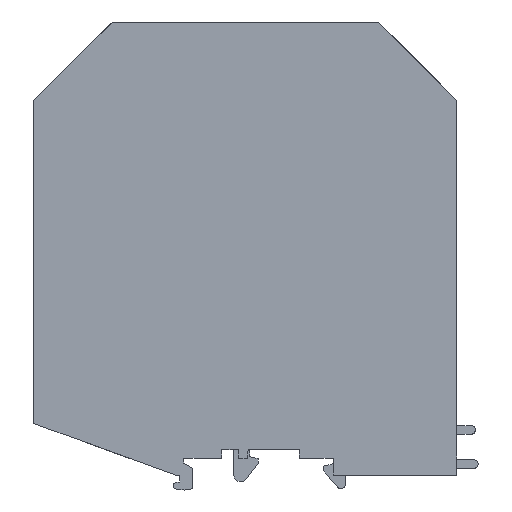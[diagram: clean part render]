
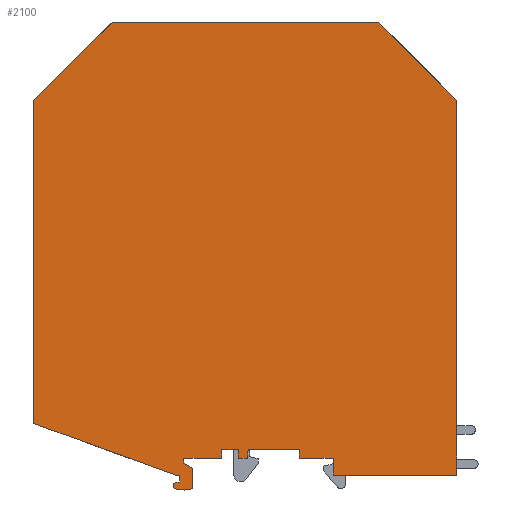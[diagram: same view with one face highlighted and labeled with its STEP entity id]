
A CAD part, left-side view. The second image highlights one B-rep face of the part: STEP entity #2100.
In plain terms, the highlighted planar face has unit normal (-1, 0, 0) as drawn and (0, 0, 1) by its records, which use the part's own axes.
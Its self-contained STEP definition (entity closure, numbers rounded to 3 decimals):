
#10=CARTESIAN_POINT('',(96.969,121.013,29.5));
#20=DIRECTION('',(0.,0.,1.));
#30=DIRECTION('',(1.,0.,0.));
#40=AXIS2_PLACEMENT_3D('',#10,#20,#30);
#50=PLANE('',#40);
#60=CARTESIAN_POINT('',(87.85,27.957,29.5));
#70=DIRECTION('',(0.,0.,-1.));
#80=DIRECTION('',(-1.,0.,0.));
#90=AXIS2_PLACEMENT_3D('',#60,#70,#80);
#100=CIRCLE('',#90,7.2);
#110=CARTESIAN_POINT('',(90.05,21.101,29.5));
#120=VERTEX_POINT('',#110);
#130=CARTESIAN_POINT('',(85.944,21.014,29.5));
#140=VERTEX_POINT('',#130);
#150=EDGE_CURVE('',#120,#140,#100,.T.);
#160=ORIENTED_EDGE('',*,*,#150,.F.);
#170=CARTESIAN_POINT('',(86.1,21.747,29.5));
#180=DIRECTION('',(0.,0.,-1.));
#190=DIRECTION('',(-1.,0.,0.));
#200=AXIS2_PLACEMENT_3D('',#170,#180,#190);
#210=CIRCLE('',#200,0.75);
#220=CARTESIAN_POINT('',(85.97,22.486,29.5));
#230=VERTEX_POINT('',#220);
#240=EDGE_CURVE('',#140,#230,#210,.T.);
#250=ORIENTED_EDGE('',*,*,#240,.F.);
#260=CARTESIAN_POINT('',(0.,7.327,29.5));
#270=DIRECTION('',(0.985,0.174,0.));
#280=VECTOR('',#270,1.);
#290=LINE('',#260,#280);
#300=CARTESIAN_POINT('',(86.9,22.65,29.5));
#310=VERTEX_POINT('',#300);
#320=EDGE_CURVE('',#230,#310,#290,.T.);
#330=ORIENTED_EDGE('',*,*,#320,.F.);
#340=CARTESIAN_POINT('',(86.9,0.,29.5));
#350=DIRECTION('',(0.,1.,0.));
#360=VECTOR('',#350,1.);
#370=LINE('',#340,#360);
#380=CARTESIAN_POINT('',(86.9,24.3,29.5));
#390=VERTEX_POINT('',#380);
#400=EDGE_CURVE('',#310,#390,#370,.T.);
#410=ORIENTED_EDGE('',*,*,#400,.F.);
#420=CARTESIAN_POINT('',(0.,24.3,29.5));
#430=DIRECTION('',(-1.,0.,0.));
#440=VECTOR('',#430,1.);
#450=LINE('',#420,#440);
#460=CARTESIAN_POINT('',(85.918,24.3,29.5));
#470=VERTEX_POINT('',#460);
#480=EDGE_CURVE('',#390,#470,#450,.T.);
#490=ORIENTED_EDGE('',*,*,#480,.F.);
#500=CARTESIAN_POINT('',(0.,55.571,29.5));
#510=DIRECTION('',(-0.94,0.342,0.));
#520=VECTOR('',#510,1.);
#530=LINE('',#500,#520);
#540=CARTESIAN_POINT('',(52.4,36.499,29.5));
#550=VERTEX_POINT('',#540);
#560=EDGE_CURVE('',#470,#550,#530,.T.);
#570=ORIENTED_EDGE('',*,*,#560,.F.);
#580=CARTESIAN_POINT('',(52.4,0.,29.5));
#590=DIRECTION('',(0.,-1.,0.));
#600=VECTOR('',#590,1.);
#610=LINE('',#580,#600);
#620=CARTESIAN_POINT('',(52.4,113.1,29.5));
#630=VERTEX_POINT('',#620);
#640=EDGE_CURVE('',#630,#550,#610,.T.);
#650=ORIENTED_EDGE('',*,*,#640,.T.);
#660=CARTESIAN_POINT('',(-60.7,0.,29.5));
#670=DIRECTION('',(0.707,0.707,0.));
#680=VECTOR('',#670,1.);
#690=LINE('',#660,#680);
#700=CARTESIAN_POINT('',(70.9,131.6,29.5));
#710=VERTEX_POINT('',#700);
#720=EDGE_CURVE('',#630,#710,#690,.T.);
#730=ORIENTED_EDGE('',*,*,#720,.F.);
#740=CARTESIAN_POINT('',(0.,131.6,29.5));
#750=DIRECTION('',(1.,0.,0.));
#760=VECTOR('',#750,1.);
#770=LINE('',#740,#760);
#780=CARTESIAN_POINT('',(134.,131.6,29.5));
#790=VERTEX_POINT('',#780);
#800=EDGE_CURVE('',#710,#790,#770,.T.);
#810=ORIENTED_EDGE('',*,*,#800,.F.);
#820=CARTESIAN_POINT('',(265.6,0.,29.5));
#830=DIRECTION('',(0.707,-0.707,0.));
#840=VECTOR('',#830,1.);
#850=LINE('',#820,#840);
#860=CARTESIAN_POINT('',(152.5,113.1,29.5));
#870=VERTEX_POINT('',#860);
#880=EDGE_CURVE('',#790,#870,#850,.T.);
#890=ORIENTED_EDGE('',*,*,#880,.F.);
#900=CARTESIAN_POINT('',(152.5,0.,29.5));
#910=DIRECTION('',(0.,-1.,0.));
#920=VECTOR('',#910,1.);
#930=LINE('',#900,#920);
#940=CARTESIAN_POINT('',(152.5,24.3,29.5));
#950=VERTEX_POINT('',#940);
#960=EDGE_CURVE('',#870,#950,#930,.T.);
#970=ORIENTED_EDGE('',*,*,#960,.F.);
#980=CARTESIAN_POINT('',(0.,24.3,29.5));
#990=DIRECTION('',(-1.,0.,0.));
#1000=VECTOR('',#990,1.);
#1010=LINE('',#980,#1000);
#1020=CARTESIAN_POINT('',(123.302,24.3,29.5));
#1030=VERTEX_POINT('',#1020);
#1040=EDGE_CURVE('',#950,#1030,#1010,.T.);
#1050=ORIENTED_EDGE('',*,*,#1040,.F.);
#1060=CARTESIAN_POINT('',(123.302,0.,29.5));
#1070=DIRECTION('',(0.,1.,0.));
#1080=VECTOR('',#1070,1.);
#1090=LINE('',#1060,#1080);
#1100=CARTESIAN_POINT('',(123.302,28.25,29.5));
#1110=VERTEX_POINT('',#1100);
#1120=EDGE_CURVE('',#1030,#1110,#1090,.T.);
#1130=ORIENTED_EDGE('',*,*,#1120,.F.);
#1140=CARTESIAN_POINT('',(0.,28.25,29.5));
#1150=DIRECTION('',(1.,0.,0.));
#1160=VECTOR('',#1150,1.);
#1170=LINE('',#1140,#1160);
#1180=CARTESIAN_POINT('',(115.25,28.25,29.5));
#1190=VERTEX_POINT('',#1180);
#1200=EDGE_CURVE('',#1190,#1110,#1170,.T.);
#1210=ORIENTED_EDGE('',*,*,#1200,.T.);
#1220=CARTESIAN_POINT('',(115.25,0.,29.5));
#1230=DIRECTION('',(0.,1.,0.));
#1240=VECTOR('',#1230,1.);
#1250=LINE('',#1220,#1240);
#1260=CARTESIAN_POINT('',(115.25,30.35,29.5));
#1270=VERTEX_POINT('',#1260);
#1280=EDGE_CURVE('',#1190,#1270,#1250,.T.);
#1290=ORIENTED_EDGE('',*,*,#1280,.F.);
#1300=CARTESIAN_POINT('',(0.,30.35,29.5));
#1310=DIRECTION('',(1.,0.,0.));
#1320=VECTOR('',#1310,1.);
#1330=LINE('',#1300,#1320);
#1340=CARTESIAN_POINT('',(103.15,30.35,29.5));
#1350=VERTEX_POINT('',#1340);
#1360=EDGE_CURVE('',#1350,#1270,#1330,.T.);
#1370=ORIENTED_EDGE('',*,*,#1360,.T.);
#1380=CARTESIAN_POINT('',(100.495,0.,29.5));
#1390=DIRECTION('',(-0.087,-0.996,0.));
#1400=VECTOR('',#1390,1.);
#1410=LINE('',#1380,#1400);
#1420=CARTESIAN_POINT('',(102.966,28.25,29.5));
#1430=VERTEX_POINT('',#1420);
#1440=EDGE_CURVE('',#1350,#1430,#1410,.T.);
#1450=ORIENTED_EDGE('',*,*,#1440,.F.);
#1460=CARTESIAN_POINT('',(0.,28.25,29.5));
#1470=DIRECTION('',(-1.,0.,0.));
#1480=VECTOR('',#1470,1.);
#1490=LINE('',#1460,#1480);
#1500=CARTESIAN_POINT('',(100.85,28.25,29.5));
#1510=VERTEX_POINT('',#1500);
#1520=EDGE_CURVE('',#1430,#1510,#1490,.T.);
#1530=ORIENTED_EDGE('',*,*,#1520,.F.);
#1540=CARTESIAN_POINT('',(100.85,0.,29.5));
#1550=DIRECTION('',(0.,1.,0.));
#1560=VECTOR('',#1550,1.);
#1570=LINE('',#1540,#1560);
#1580=CARTESIAN_POINT('',(100.85,30.35,29.5));
#1590=VERTEX_POINT('',#1580);
#1600=EDGE_CURVE('',#1510,#1590,#1570,.T.);
#1610=ORIENTED_EDGE('',*,*,#1600,.F.);
#1620=CARTESIAN_POINT('',(0.,30.35,29.5));
#1630=DIRECTION('',(-1.,0.,0.));
#1640=VECTOR('',#1630,1.);
#1650=LINE('',#1620,#1640);
#1660=CARTESIAN_POINT('',(96.85,30.35,29.5));
#1670=VERTEX_POINT('',#1660);
#1680=EDGE_CURVE('',#1590,#1670,#1650,.T.);
#1690=ORIENTED_EDGE('',*,*,#1680,.F.);
#1700=CARTESIAN_POINT('',(96.85,0.,29.5));
#1710=DIRECTION('',(0.,-1.,0.));
#1720=VECTOR('',#1710,1.);
#1730=LINE('',#1700,#1720);
#1740=CARTESIAN_POINT('',(96.85,28.25,29.5));
#1750=VERTEX_POINT('',#1740);
#1760=EDGE_CURVE('',#1670,#1750,#1730,.T.);
#1770=ORIENTED_EDGE('',*,*,#1760,.F.);
#1780=CARTESIAN_POINT('',(0.,28.25,29.5));
#1790=DIRECTION('',(-1.,0.,0.));
#1800=VECTOR('',#1790,1.);
#1810=LINE('',#1780,#1800);
#1820=CARTESIAN_POINT('',(87.9,28.25,29.5));
#1830=VERTEX_POINT('',#1820);
#1840=EDGE_CURVE('',#1750,#1830,#1810,.T.);
#1850=ORIENTED_EDGE('',*,*,#1840,.F.);
#1860=CARTESIAN_POINT('',(87.9,0.,29.5));
#1870=DIRECTION('',(0.,-1.,0.));
#1880=VECTOR('',#1870,1.);
#1890=LINE('',#1860,#1880);
#1900=CARTESIAN_POINT('',(87.9,27.15,29.5));
#1910=VERTEX_POINT('',#1900);
#1920=EDGE_CURVE('',#1830,#1910,#1890,.T.);
#1930=ORIENTED_EDGE('',*,*,#1920,.F.);
#1940=CARTESIAN_POINT('',(0.,77.899,29.5));
#1950=DIRECTION('',(0.866,-0.5,0.));
#1960=VECTOR('',#1950,1.);
#1970=LINE('',#1940,#1960);
#1980=CARTESIAN_POINT('',(90.05,25.909,29.5));
#1990=VERTEX_POINT('',#1980);
#2000=EDGE_CURVE('',#1910,#1990,#1970,.T.);
#2010=ORIENTED_EDGE('',*,*,#2000,.F.);
#2020=CARTESIAN_POINT('',(90.05,0.,29.5));
#2030=DIRECTION('',(0.,-1.,0.));
#2040=VECTOR('',#2030,1.);
#2050=LINE('',#2020,#2040);
#2060=EDGE_CURVE('',#1990,#120,#2050,.T.);
#2070=ORIENTED_EDGE('',*,*,#2060,.F.);
#2080=EDGE_LOOP('',(#2070,#2010,#1930,#1850,#1770,#1690,#1610,#1530,
#1450,#1370,#1290,#1210,#1130,#1050,#970,#890,#810,#730,#650,#570,#490,
#410,#330,#250,#160));
#2090=FACE_OUTER_BOUND('',#2080,.T.);
#2100=ADVANCED_FACE('',(#2090),#50,.T.);
